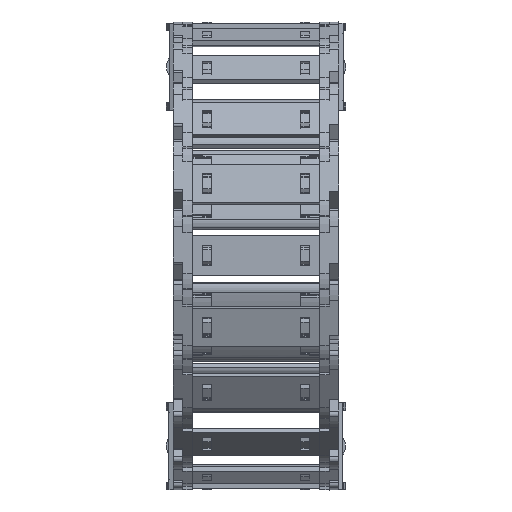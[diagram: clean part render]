
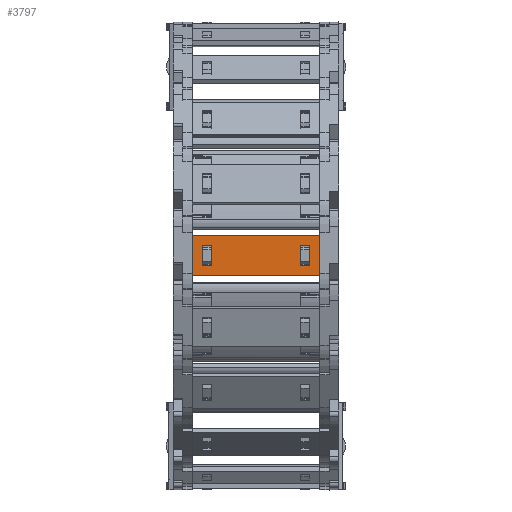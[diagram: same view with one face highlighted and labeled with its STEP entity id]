
A CAD part, top view. The second image highlights one B-rep face of the part: STEP entity #3797.
In plain terms, the highlighted planar face has unit normal (0, 0, 1) as drawn and (0, 1, 0) by its records, which use the part's own axes.
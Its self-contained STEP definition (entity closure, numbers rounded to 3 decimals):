
#2923=DIRECTION('',(0.,0.,1.));
#2924=VECTOR('',#2923,15.8);
#2925=CARTESIAN_POINT('',(35.74,1.5,-7.9));
#2926=LINE('',#2925,#2924);
#2930=DIRECTION('',(-1.,0.,0.));
#2931=VECTOR('',#2930,50.5);
#2932=CARTESIAN_POINT('',(35.74,1.5,7.9));
#2933=LINE('',#2932,#2931);
#2937=DIRECTION('',(0.,0.,-1.));
#2938=VECTOR('',#2937,15.8);
#2939=CARTESIAN_POINT('',(-14.76,1.5,7.9));
#2940=LINE('',#2939,#2938);
#2944=DIRECTION('',(1.,0.,0.));
#2945=VECTOR('',#2944,3.648);
#2946=CARTESIAN_POINT('',(28.122,1.5,4.075));
#2947=LINE('',#2946,#2945);
#2951=DIRECTION('',(0.,0.,-1.));
#2952=VECTOR('',#2951,8.15);
#2953=CARTESIAN_POINT('',(31.77,1.5,4.075));
#2954=LINE('',#2953,#2952);
#2958=DIRECTION('',(-1.,0.,0.));
#2959=VECTOR('',#2958,3.648);
#2960=CARTESIAN_POINT('',(31.77,1.5,-4.075));
#2961=LINE('',#2960,#2959);
#2965=DIRECTION('',(0.,0.,-1.));
#2966=VECTOR('',#2965,8.15);
#2967=CARTESIAN_POINT('',(-7.142,1.5,4.075));
#2968=LINE('',#2967,#2966);
#2972=DIRECTION('',(-1.,0.,0.));
#2973=VECTOR('',#2972,3.648);
#2974=CARTESIAN_POINT('',(-7.142,1.5,-4.075));
#2975=LINE('',#2974,#2973);
#2979=DIRECTION('',(0.,0.,1.));
#2980=VECTOR('',#2979,8.15);
#2981=CARTESIAN_POINT('',(-10.79,1.5,-4.075));
#2982=LINE('',#2981,#2980);
#2986=DIRECTION('',(1.,0.,0.));
#2987=VECTOR('',#2986,3.648);
#2988=CARTESIAN_POINT('',(-10.79,1.5,4.075));
#2989=LINE('',#2988,#2987);
#3000=DIRECTION('',(-1.,0.,0.));
#3001=VECTOR('',#3000,50.5);
#3002=CARTESIAN_POINT('',(35.74,1.5,-7.9));
#3003=LINE('',#3002,#3001);
#3208=DIRECTION('',(0.,0.,-1.));
#3209=VECTOR('',#3208,8.15);
#3210=CARTESIAN_POINT('',(28.122,1.5,4.075));
#3211=LINE('',#3210,#3209);
#3507=CARTESIAN_POINT('',(31.77,1.5,4.075));
#3508=VERTEX_POINT('',#3507);
#3509=CARTESIAN_POINT('',(28.122,1.5,4.075));
#3510=VERTEX_POINT('',#3509);
#3551=CARTESIAN_POINT('',(28.122,1.5,-4.075));
#3552=VERTEX_POINT('',#3551);
#3553=CARTESIAN_POINT('',(31.77,1.5,-4.075));
#3554=VERTEX_POINT('',#3553);
#3555=CARTESIAN_POINT('',(35.74,1.5,7.9));
#3557=VERTEX_POINT('',#3555);
#3559=CARTESIAN_POINT('',(35.74,1.5,-7.9));
#3560=VERTEX_POINT('',#3559);
#3583=CARTESIAN_POINT('',(-7.142,1.5,4.075));
#3584=CARTESIAN_POINT('',(-7.142,1.5,-4.075));
#3585=VERTEX_POINT('',#3583);
#3586=VERTEX_POINT('',#3584);
#3587=CARTESIAN_POINT('',(-10.79,1.5,-4.075));
#3588=VERTEX_POINT('',#3587);
#3589=CARTESIAN_POINT('',(-10.79,1.5,4.075));
#3590=VERTEX_POINT('',#3589);
#3591=CARTESIAN_POINT('',(-14.76,1.5,7.9));
#3592=VERTEX_POINT('',#3591);
#3595=CARTESIAN_POINT('',(-14.76,1.5,-7.9));
#3596=VERTEX_POINT('',#3595);
#3766=CARTESIAN_POINT('',(67.48,1.5,10.061));
#3767=DIRECTION('',(0.,-1.,0.));
#3768=DIRECTION('',(0.,0.,-1.));
#3769=AXIS2_PLACEMENT_3D('',#3766,#3767,#3768);
#3770=PLANE('',#3769);
#3771=ORIENTED_EDGE('',*,*,#3669,.T.);
#3772=ORIENTED_EDGE('',*,*,#3707,.T.);
#3773=ORIENTED_EDGE('',*,*,#3732,.T.);
#3775=ORIENTED_EDGE('',*,*,#3774,.F.);
#3776=EDGE_LOOP('',(#3771,#3772,#3773,#3775));
#3777=FACE_OUTER_BOUND('',#3776,.F.);
#3779=ORIENTED_EDGE('',*,*,#3778,.F.);
#3780=ORIENTED_EDGE('',*,*,#3608,.T.);
#3782=ORIENTED_EDGE('',*,*,#3781,.T.);
#3784=ORIENTED_EDGE('',*,*,#3783,.T.);
#3785=EDGE_LOOP('',(#3779,#3780,#3782,#3784));
#3786=FACE_BOUND('',#3785,.F.);
#3788=ORIENTED_EDGE('',*,*,#3787,.T.);
#3790=ORIENTED_EDGE('',*,*,#3789,.T.);
#3792=ORIENTED_EDGE('',*,*,#3791,.T.);
#3794=ORIENTED_EDGE('',*,*,#3793,.T.);
#3795=EDGE_LOOP('',(#3788,#3790,#3792,#3794));
#3796=FACE_BOUND('',#3795,.F.);
#3797=ADVANCED_FACE('',(#3777,#3786,#3796),#3770,.F.);
#3608=EDGE_CURVE('',#3510,#3508,#2947,.T.);
#3669=EDGE_CURVE('',#3560,#3557,#2926,.T.);
#3707=EDGE_CURVE('',#3557,#3592,#2933,.T.);
#3732=EDGE_CURVE('',#3592,#3596,#2940,.T.);
#3774=EDGE_CURVE('',#3560,#3596,#3003,.T.);
#3778=EDGE_CURVE('',#3510,#3552,#3211,.T.);
#3781=EDGE_CURVE('',#3508,#3554,#2954,.T.);
#3783=EDGE_CURVE('',#3554,#3552,#2961,.T.);
#3787=EDGE_CURVE('',#3585,#3586,#2968,.T.);
#3789=EDGE_CURVE('',#3586,#3588,#2975,.T.);
#3791=EDGE_CURVE('',#3588,#3590,#2982,.T.);
#3793=EDGE_CURVE('',#3590,#3585,#2989,.T.);
